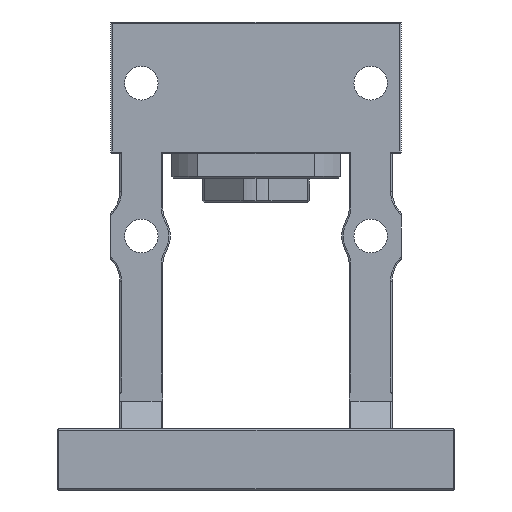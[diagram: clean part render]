
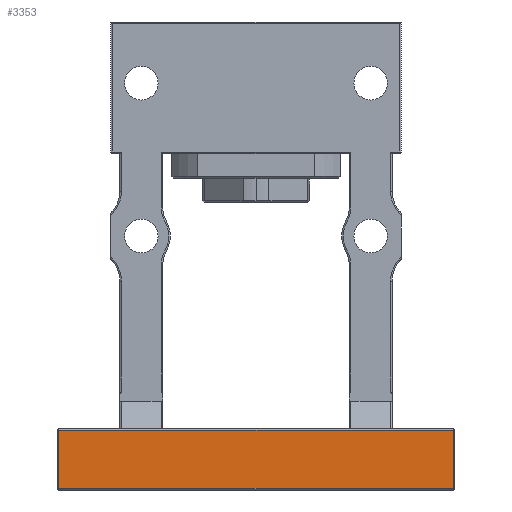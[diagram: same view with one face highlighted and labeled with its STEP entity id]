
A CAD part, front view. The second image highlights one B-rep face of the part: STEP entity #3353.
In plain terms, the highlighted planar face has unit normal (0, -1, 0).
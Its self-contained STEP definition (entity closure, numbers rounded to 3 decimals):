
#212 = VECTOR ( 'NONE', #3474, 1000. ) ;
#344 = DIRECTION ( 'NONE',  ( 1., 0., 0. ) ) ;
#507 = LINE ( 'NONE', #1300, #9635 ) ;
#564 = CARTESIAN_POINT ( 'NONE',  ( 65., -65., -124. ) ) ;
#569 = ORIENTED_EDGE ( 'NONE', *, *, #684, .T. ) ;
#684 = EDGE_CURVE ( 'NONE', #5599, #6440, #3519, .T. ) ;
#998 = VECTOR ( 'NONE', #1246, 1000. ) ;
#1058 = CARTESIAN_POINT ( 'NONE',  ( -64.5, -65., -143.5 ) ) ;
#1169 = ORIENTED_EDGE ( 'NONE', *, *, #2024, .T. ) ;
#1229 = VERTEX_POINT ( 'NONE', #9339 ) ;
#1246 = DIRECTION ( 'NONE',  ( -1., 0., 0. ) ) ;
#1300 = CARTESIAN_POINT ( 'NONE',  ( 65., -65., -143.5 ) ) ;
#1522 = DIRECTION ( 'NONE',  ( -1., 0., 0. ) ) ;
#1855 = VECTOR ( 'NONE', #5798, 1000. ) ;
#2024 = EDGE_CURVE ( 'NONE', #2757, #1229, #507, .T. ) ;
#2063 = CARTESIAN_POINT ( 'NONE',  ( -64.5, -65., -124. ) ) ;
#2130 = CARTESIAN_POINT ( 'NONE',  ( -65., -65., -124.5 ) ) ;
#2436 = FACE_OUTER_BOUND ( 'NONE', #3910, .T. ) ;
#2512 = AXIS2_PLACEMENT_3D ( 'NONE', #564, #7156, #1522 ) ;
#2543 = CARTESIAN_POINT ( 'NONE',  ( 64.5, -65., -124. ) ) ;
#2757 = VERTEX_POINT ( 'NONE', #1058 ) ;
#3353 = ADVANCED_FACE ( 'NONE', ( #2436 ), #3387, .F. ) ;
#3387 = PLANE ( 'NONE',  #2512 ) ;
#3474 = DIRECTION ( 'NONE',  ( 0., 0., 1. ) ) ;
#3519 = LINE ( 'NONE', #2130, #998 ) ;
#3910 = EDGE_LOOP ( 'NONE', ( #569, #5585, #1169, #5055 ) ) ;
#4369 = LINE ( 'NONE', #2063, #1855 ) ;
#5055 = ORIENTED_EDGE ( 'NONE', *, *, #8456, .T. ) ;
#5585 = ORIENTED_EDGE ( 'NONE', *, *, #9021, .T. ) ;
#5599 = VERTEX_POINT ( 'NONE', #7114 ) ;
#5798 = DIRECTION ( 'NONE',  ( 0., 0., -1. ) ) ;
#6440 = VERTEX_POINT ( 'NONE', #8164 ) ;
#7114 = CARTESIAN_POINT ( 'NONE',  ( 64.5, -65., -124.5 ) ) ;
#7156 = DIRECTION ( 'NONE',  ( 0., 1., 0. ) ) ;
#8164 = CARTESIAN_POINT ( 'NONE',  ( -64.5, -65., -124.5 ) ) ;
#8456 = EDGE_CURVE ( 'NONE', #1229, #5599, #10240, .T. ) ;
#9021 = EDGE_CURVE ( 'NONE', #6440, #2757, #4369, .T. ) ;
#9339 = CARTESIAN_POINT ( 'NONE',  ( 64.5, -65., -143.5 ) ) ;
#9635 = VECTOR ( 'NONE', #344, 1000. ) ;
#10240 = LINE ( 'NONE', #2543, #212 ) ;
